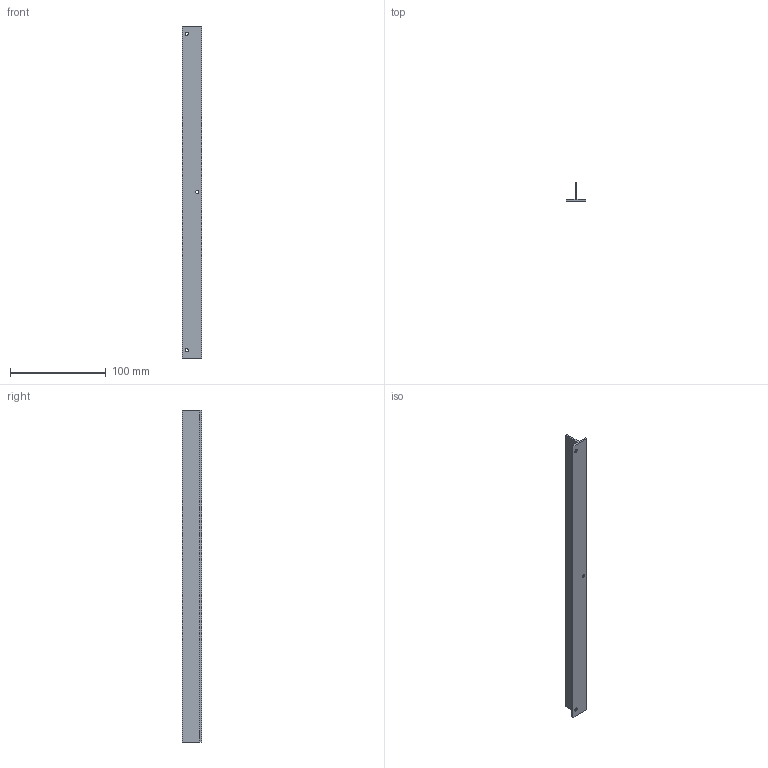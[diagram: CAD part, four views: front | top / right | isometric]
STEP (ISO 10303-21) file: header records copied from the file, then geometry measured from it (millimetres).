
FILE_DESCRIPTION(/* description */ ('T-Profile Guide Rail','CAx-IF Rec.Pracs.---Representation and Presentation of Product Manufacturing Information (PMI)---4.0---2014-10-13'),/* implementation_level */ '2;1');
FILE_NAME(/* name */ 'E:\CAMTEC_2020_Pack and Go\Subrack_3U\2051049002CA.stp',/* time_stamp */ '2020-09-21T17:56:21+02:00',/* author */ ('rryba'),/* organization */ (''),/* preprocessor_version */ 'ST-DEVELOPER v18.1',/* originating_system */ 'Autodesk Inventor 2021',/* authorisation */ '');
FILE_SCHEMA (('AP242_MANAGED_MODEL_BASED_3D_ENGINEERING_MIM_LF { 1 0 10303 442 1 1 4 }'));
Length unit declared in the file: millimetre
Products named in the file (1): 2051049002CA
Bounding box: 20 x 20 x 346 mm (x, y, z)
Volume: 26183 mm3; surface area: 27836 mm2
Topology: 1 solids, 1 shells, 19 faces, 60 edges, 55 vertices
Faces by surface type: plane 10, cylinder 6, cone 3
Full cylindrical faces by diameter (mm): 3.4 x3, 5.9 x3
Entity records: 688 total; most frequent: CARTESIAN_POINT 120, DIRECTION 103, ORIENTED_EDGE 90, EDGE_CURVE 45, AXIS2_PLACEMENT_3D 35, LINE 33, VECTOR 33, VERTEX_POINT 28
